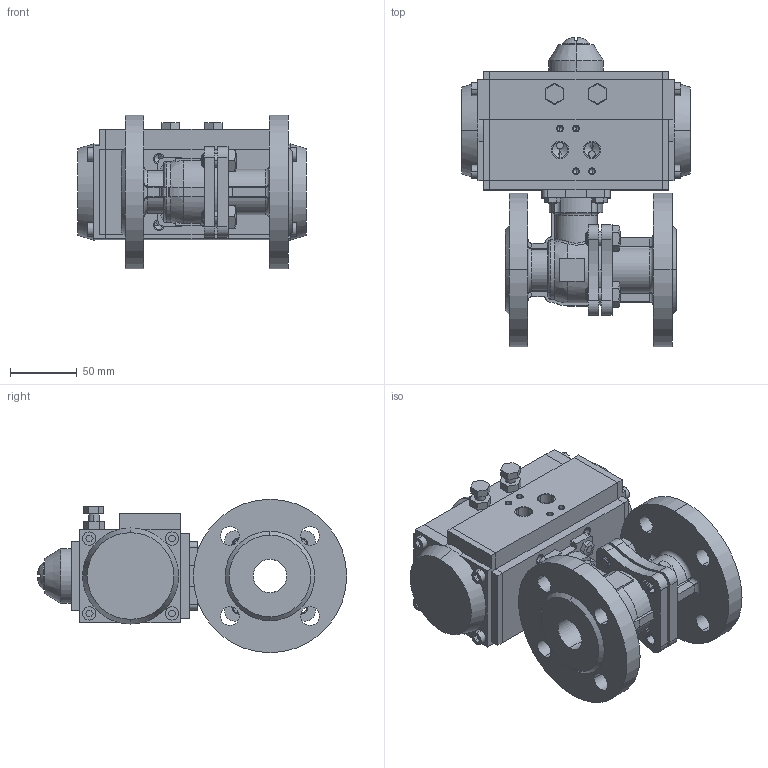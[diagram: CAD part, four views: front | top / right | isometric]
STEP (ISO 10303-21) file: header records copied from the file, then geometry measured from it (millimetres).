
FILE_DESCRIPTION((''),'2;1');
FILE_NAME('BV-22F_RPA_ASM','2024-09-11T',('USER'),(''),'PRO/ENGINEER BY PARAMETRIC TECHNOLOGY CORPORATION, 2011220','PRO/ENGINEER BY PARAMETRIC TECHNOLOGY CORPORATION, 2011220','');
FILE_SCHEMA(('CONFIG_CONTROL_DESIGN'));
Length unit declared in the file: millimetre
Products named in the file (12): KORPUS_KRAN_FL; B-7798-M10-20; SB_KRAN_FL_ASM; KORPUS_PNEVMOPRIVOD; KOLCO_18_GOST13942; KRISKA_VERX; VINT; KRISKA_LEFT; KRISKA_RIGHT; SB_PNEVMOPRIVOD_ASM; B-7798-M6-14; BV-22F_RPA_ASM
Assembly tree (17 placements, depth 3):
  BV-22F_RPA_ASM
    SB_KRAN_FL_ASM
      KORPUS_KRAN_FL
      B-7798-M10-20  x4
    SB_PNEVMOPRIVOD_ASM
      KORPUS_PNEVMOPRIVOD
      KOLCO_18_GOST13942
      KRISKA_VERX
      VINT
      KRISKA_LEFT
      KRISKA_RIGHT
    B-7798-M6-14  x4
Bounding box: 171 x 231.93 x 115 mm (x, y, z)
Volume: 1515934.9 mm3; surface area: 224736.1 mm2
Topology: 15 solids, 49 shells, 824 faces, 2082 edges, 1335 vertices
Faces by surface type: plane 408, cylinder 292, cone 82, torus 23, bspline 14, extrusion 3, sphere 2
Entity records: 22928 total; most frequent: CARTESIAN_POINT 5020, DIRECTION 3833, ORIENTED_EDGE 3468, EDGE_CURVE 1792, AXIS2_PLACEMENT_3D 1381, VERTEX_POINT 1179, VECTOR 1071, LINE 1068
